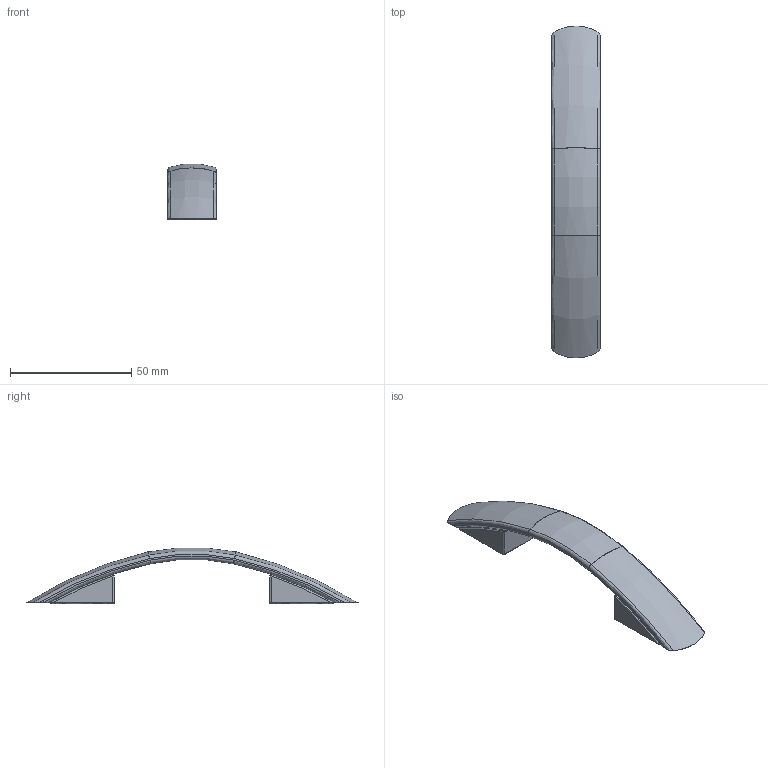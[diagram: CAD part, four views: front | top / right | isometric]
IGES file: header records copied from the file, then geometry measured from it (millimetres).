
Start section: C
Global section: file name: 0071-137.igs; native system: By Siemens PLM Incorporated; preprocessor: XPlus GENERIC/IGES 16.0.42; author: Author; organization: Title; date: 20260104.160113; units: millimetre
Bounding box: 20.2 x 136.95 x 23.01 mm (x, y, z)
Surface area: 10329 mm2 (no closed solid volume)
Topology: 0 solids, 0 shells, 78 faces, 354 edges, 340 vertices
Faces by surface type: bspline 78
